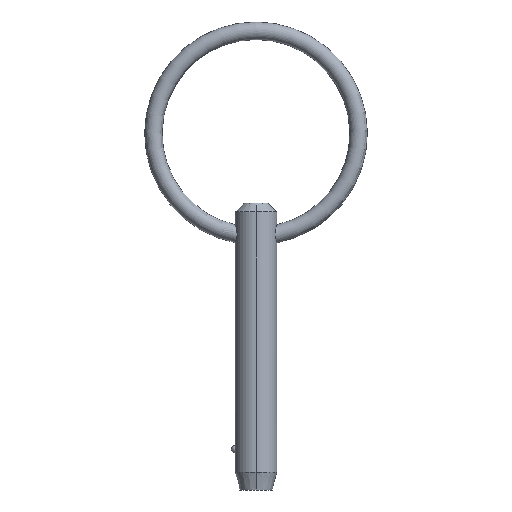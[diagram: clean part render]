
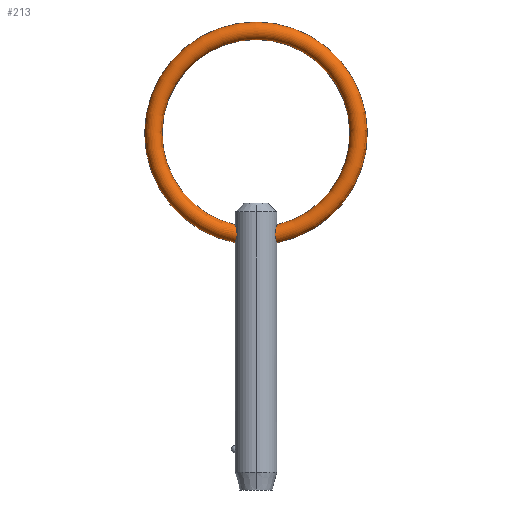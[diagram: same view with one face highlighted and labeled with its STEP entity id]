
A CAD part, left-side view. The second image highlights one B-rep face of the part: STEP entity #213.
In plain terms, the highlighted toroidal (fillet/blend) face has major radius 11.7 mm and minor radius 1 mm.
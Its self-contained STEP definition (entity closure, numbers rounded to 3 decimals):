
#9 = DIRECTION ( 'NONE',  ( 0., 0., -1. ) ) ;
#11 = VERTEX_POINT ( 'NONE', #21 ) ;
#14 = B_SPLINE_CURVE_WITH_KNOTS ( 'NONE', 3,
 ( #36, #297, #290, #332, #402, #262, #217, #371, #139, #144, #34, #180, #38, #439, #298, #433, #436, #101, #62, #471 ),
 .UNSPECIFIED., .F., .F.,
 ( 4, 2, 2, 2, 2, 2, 2, 2, 2, 4 ),
 ( 0.004, 0.004, 0.005, 0.005, 0.005, 0.006, 0.006, 0.006, 0.007, 0.007 ),
 .UNSPECIFIED. ) ;
#21 = CARTESIAN_POINT ( 'NONE',  ( 0., 2.38, 25.168 ) ) ;
#23 = B_SPLINE_CURVE_WITH_KNOTS ( 'NONE', 3,
 ( #245, #212, #466, #63, #65, #338, #214, #293, #299, #469, #330, #403, #135, #472, #35, #254 ),
 .UNSPECIFIED., .F., .F.,
 ( 4, 2, 2, 2, 2, 2, 2, 4 ),
 ( 0.006, 0.006, 0.007, 0.007, 0.007, 0.008, 0.009, 0.009 ),
 .UNSPECIFIED. ) ;
#28 = EDGE_CURVE ( 'NONE', #59, #311, #23, .T. ) ;
#33 = EDGE_CURVE ( 'NONE', #11, #167, #14, .T. ) ;
#34 = CARTESIAN_POINT ( 'NONE',  ( -0.997, 2.161, 23.998 ) ) ;
#35 = CARTESIAN_POINT ( 'NONE',  ( -0.134, -2.38, 25.168 ) ) ;
#36 = CARTESIAN_POINT ( 'NONE',  ( 0., 2.38, 25.168 ) ) ;
#37 = ORIENTED_EDGE ( 'NONE', *, *, #28, .F. ) ;
#38 = CARTESIAN_POINT ( 'NONE',  ( -0.957, 2.179, 23.802 ) ) ;
#40 = DIRECTION ( 'NONE',  ( 1., 0., 0. ) ) ;
#59 = VERTEX_POINT ( 'NONE', #369 ) ;
#62 = CARTESIAN_POINT ( 'NONE',  ( -0.133, 2.38, 23.125 ) ) ;
#63 = CARTESIAN_POINT ( 'NONE',  ( -0.514, -2.327, 23.249 ) ) ;
#65 = CARTESIAN_POINT ( 'NONE',  ( -0.626, -2.298, 23.322 ) ) ;
#75 = CARTESIAN_POINT ( 'NONE',  ( 0., 0., 35.6 ) ) ;
#81 = ORIENTED_EDGE ( 'NONE', *, *, #388, .F. ) ;
#93 = CIRCLE ( 'NONE', #123, 10.7 ) ;
#101 = CARTESIAN_POINT ( 'NONE',  ( -0.267, 2.368, 23.151 ) ) ;
#123 = AXIS2_PLACEMENT_3D ( 'NONE', #75, #380, #9 ) ;
#135 = CARTESIAN_POINT ( 'NONE',  ( -0.505, -2.329, 25.026 ) ) ;
#139 = CARTESIAN_POINT ( 'NONE',  ( -0.996, 2.162, 24.265 ) ) ;
#144 = CARTESIAN_POINT ( 'NONE',  ( -1.001, 2.159, 24.064 ) ) ;
#150 = CARTESIAN_POINT ( 'NONE',  ( 0., 2.38, 23.125 ) ) ;
#157 = CARTESIAN_POINT ( 'NONE',  ( 0., -2.38, 25.168 ) ) ;
#167 = VERTEX_POINT ( 'NONE', #150 ) ;
#174 = TOROIDAL_SURFACE ( 'NONE', #331, 11.7, 1. ) ;
#180 = CARTESIAN_POINT ( 'NONE',  ( -0.975, 2.171, 23.867 ) ) ;
#199 = CIRCLE ( 'NONE', #304, 12.7 ) ;
#204 = CARTESIAN_POINT ( 'NONE',  ( 0., 0., 35.6 ) ) ;
#212 = CARTESIAN_POINT ( 'NONE',  ( -0.133, -2.38, 23.125 ) ) ;
#213 = ADVANCED_FACE ( 'NONE', ( #391 ), #174, .T. ) ;
#214 = CARTESIAN_POINT ( 'NONE',  ( -0.885, -2.21, 23.617 ) ) ;
#217 = CARTESIAN_POINT ( 'NONE',  ( -0.864, 2.218, 24.641 ) ) ;
#236 = DIRECTION ( 'NONE',  ( 1., 0., 0. ) ) ;
#245 = CARTESIAN_POINT ( 'NONE',  ( 0., -2.38, 23.125 ) ) ;
#254 = CARTESIAN_POINT ( 'NONE',  ( 0., -2.38, 25.168 ) ) ;
#260 = ORIENTED_EDGE ( 'NONE', *, *, #33, .F. ) ;
#262 = CARTESIAN_POINT ( 'NONE',  ( -0.793, 2.246, 24.752 ) ) ;
#290 = CARTESIAN_POINT ( 'NONE',  ( -0.267, 2.368, 25.137 ) ) ;
#293 = CARTESIAN_POINT ( 'NONE',  ( -0.982, -2.169, 23.865 ) ) ;
#297 = CARTESIAN_POINT ( 'NONE',  ( -0.133, 2.38, 25.168 ) ) ;
#298 = CARTESIAN_POINT ( 'NONE',  ( -0.811, 2.24, 23.505 ) ) ;
#299 = CARTESIAN_POINT ( 'NONE',  ( -1.004, -2.158, 23.999 ) ) ;
#304 = AXIS2_PLACEMENT_3D ( 'NONE', #204, #236, #426 ) ;
#311 = VERTEX_POINT ( 'NONE', #157 ) ;
#330 = CARTESIAN_POINT ( 'NONE',  ( -0.88, -2.219, 24.66 ) ) ;
#331 = AXIS2_PLACEMENT_3D ( 'NONE', #343, #40, #409 ) ;
#332 = CARTESIAN_POINT ( 'NONE',  ( -0.507, 2.329, 25.025 ) ) ;
#338 = CARTESIAN_POINT ( 'NONE',  ( -0.811, -2.24, 23.506 ) ) ;
#343 = CARTESIAN_POINT ( 'NONE',  ( 0., 0., 35.6 ) ) ;
#348 = ORIENTED_EDGE ( 'NONE', *, *, #364, .T. ) ;
#364 = EDGE_CURVE ( 'NONE', #11, #311, #93, .T. ) ;
#369 = CARTESIAN_POINT ( 'NONE',  ( 0., -2.38, 23.125 ) ) ;
#371 = CARTESIAN_POINT ( 'NONE',  ( -0.966, 2.176, 24.396 ) ) ;
#380 = DIRECTION ( 'NONE',  ( 1., 0., 0. ) ) ;
#384 = EDGE_LOOP ( 'NONE', ( #81, #260, #348, #37 ) ) ;
#388 = EDGE_CURVE ( 'NONE', #167, #59, #199, .T. ) ;
#391 = FACE_OUTER_BOUND ( 'NONE', #384, .T. ) ;
#402 = CARTESIAN_POINT ( 'NONE',  ( -0.614, 2.301, 24.945 ) ) ;
#403 = CARTESIAN_POINT ( 'NONE',  ( -0.613, -2.302, 24.946 ) ) ;
#409 = DIRECTION ( 'NONE',  ( 0., 0., -1. ) ) ;
#426 = DIRECTION ( 'NONE',  ( 0., 0., -1. ) ) ;
#433 = CARTESIAN_POINT ( 'NONE',  ( -0.626, 2.298, 23.322 ) ) ;
#436 = CARTESIAN_POINT ( 'NONE',  ( -0.512, 2.328, 23.248 ) ) ;
#439 = CARTESIAN_POINT ( 'NONE',  ( -0.885, 2.21, 23.617 ) ) ;
#466 = CARTESIAN_POINT ( 'NONE',  ( -0.268, -2.368, 23.151 ) ) ;
#469 = CARTESIAN_POINT ( 'NONE',  ( -0.991, -2.164, 24.401 ) ) ;
#471 = CARTESIAN_POINT ( 'NONE',  ( 0., 2.38, 23.125 ) ) ;
#472 = CARTESIAN_POINT ( 'NONE',  ( -0.267, -2.368, 25.137 ) ) ;
